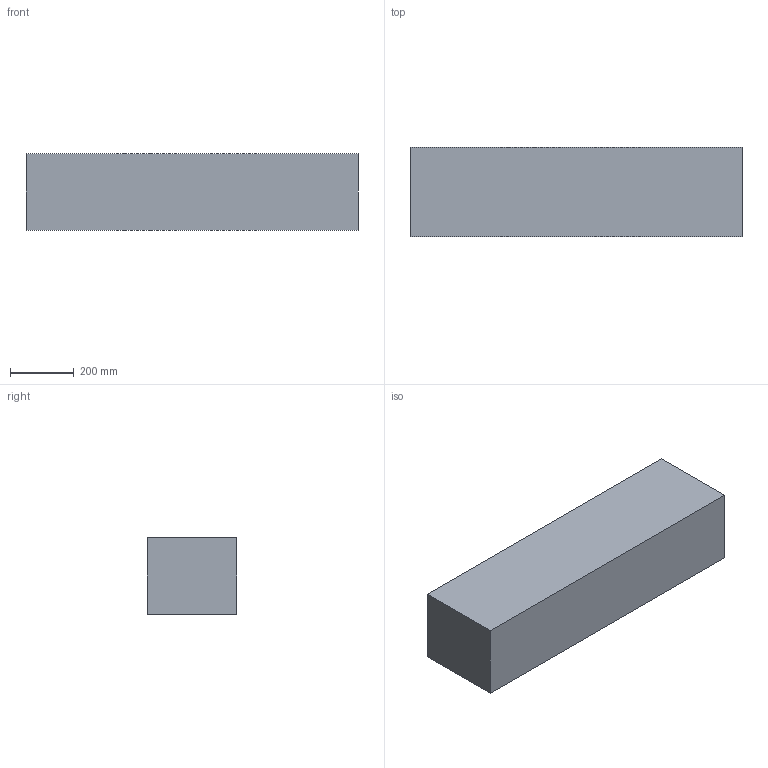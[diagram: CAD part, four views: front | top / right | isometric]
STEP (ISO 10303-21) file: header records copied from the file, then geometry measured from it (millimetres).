
FILE_DESCRIPTION(('FreeCAD Model'),'2;1');
FILE_NAME('Open CASCADE Shape Model','2026-03-31T09:54:01',('FreeCAD'),( 'FreeCAD'),'Open CASCADE STEP processor 7.8','FreeCAD','Unknown');
FILE_SCHEMA(('AUTOMOTIVE_DESIGN { 1 0 10303 214 1 1 1 1 }'));
Length unit declared in the file: millimetre
Products named in the file (1): Open CASCADE STEP translator 7.8 3
Bounding box: 1040 x 280 x 240 mm (x, y, z)
Volume: 69888000 mm3; surface area: 1216000 mm2
Topology: 1 solids, 1 shells, 6 faces, 12 edges, 8 vertices
Faces by surface type: plane 6
Entity records: 166 total; most frequent: CARTESIAN_POINT 27, DIRECTION 26, ORIENTED_EDGE 24, EDGE_CURVE 12, LINE 12, VECTOR 12, VERTEX_POINT 8, AXIS2_PLACEMENT_3D 7
